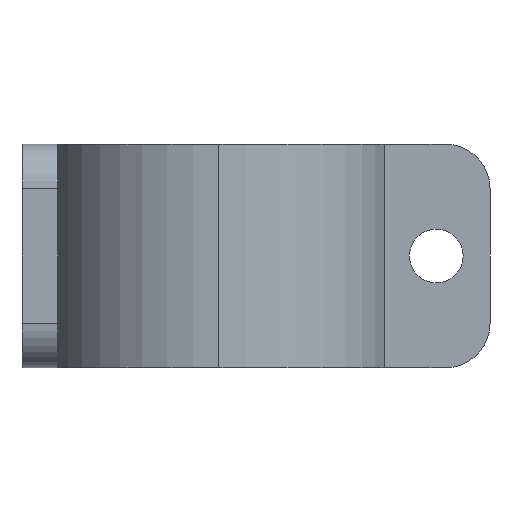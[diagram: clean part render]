
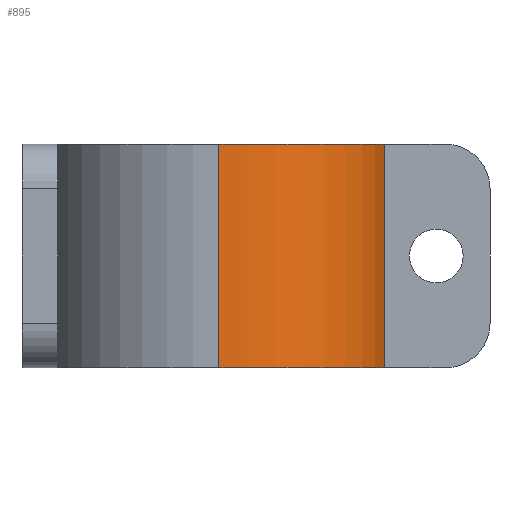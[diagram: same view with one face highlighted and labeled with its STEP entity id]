
A CAD part, left-side view. The second image highlights one B-rep face of the part: STEP entity #895.
In plain terms, the highlighted cylindrical face has radius 19 mm (diameter 38 mm), a partial arc.
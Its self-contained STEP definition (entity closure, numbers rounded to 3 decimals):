
#21 = VERTEX_POINT ( 'NONE', #1050 ) ;
#28 = EDGE_LOOP ( 'NONE', ( #605, #1169, #661, #958 ) ) ;
#34 = DIRECTION ( 'NONE',  ( -1., 0., 0. ) ) ;
#42 = CYLINDRICAL_SURFACE ( 'NONE', #138, 19. ) ;
#138 = AXIS2_PLACEMENT_3D ( 'NONE', #1066, #1179, #34 ) ;
#210 = CARTESIAN_POINT ( 'NONE',  ( -118.941, 30.271, 25. ) ) ;
#213 = VERTEX_POINT ( 'NONE', #517 ) ;
#215 = CARTESIAN_POINT ( 'NONE',  ( -104.441, 11.812, 25. ) ) ;
#220 = CIRCLE ( 'NONE', #1003, 19. ) ;
#252 = VERTEX_POINT ( 'NONE', #761 ) ;
#255 = VECTOR ( 'NONE', #487, 1000. ) ;
#259 = EDGE_CURVE ( 'NONE', #213, #21, #1151, .T. ) ;
#275 = DIRECTION ( 'NONE',  ( 0., 0., 1. ) ) ;
#327 = FACE_OUTER_BOUND ( 'NONE', #28, .T. ) ;
#367 = CARTESIAN_POINT ( 'NONE',  ( -118.941, 30.271, 0. ) ) ;
#378 = DIRECTION ( 'NONE',  ( 0., 0., 1. ) ) ;
#450 = CARTESIAN_POINT ( 'NONE',  ( -99.941, 30.271, 25. ) ) ;
#456 = DIRECTION ( 'NONE',  ( 1., 0., 0. ) ) ;
#487 = DIRECTION ( 'NONE',  ( 0., 0., -1. ) ) ;
#517 = CARTESIAN_POINT ( 'NONE',  ( -104.441, 11.812, 25. ) ) ;
#577 = EDGE_CURVE ( 'NONE', #252, #1128, #1057, .T. ) ;
#605 = ORIENTED_EDGE ( 'NONE', *, *, #791, .F. ) ;
#661 = ORIENTED_EDGE ( 'NONE', *, *, #1123, .T. ) ;
#761 = CARTESIAN_POINT ( 'NONE',  ( -118.941, 30.271, 25. ) ) ;
#777 = DIRECTION ( 'NONE',  ( 0., 0., -1. ) ) ;
#791 = EDGE_CURVE ( 'NONE', #252, #213, #934, .T. ) ;
#820 = AXIS2_PLACEMENT_3D ( 'NONE', #450, #275, #1204 ) ;
#846 = CARTESIAN_POINT ( 'NONE',  ( -99.941, 30.271, 0. ) ) ;
#895 = ADVANCED_FACE ( 'NONE', ( #327 ), #42, .T. ) ;
#905 = VECTOR ( 'NONE', #777, 1000. ) ;
#934 = CIRCLE ( 'NONE', #820, 19. ) ;
#958 = ORIENTED_EDGE ( 'NONE', *, *, #259, .F. ) ;
#1003 = AXIS2_PLACEMENT_3D ( 'NONE', #846, #378, #456 ) ;
#1050 = CARTESIAN_POINT ( 'NONE',  ( -104.441, 11.812, 0. ) ) ;
#1057 = LINE ( 'NONE', #210, #255 ) ;
#1066 = CARTESIAN_POINT ( 'NONE',  ( -99.941, 30.271, 25. ) ) ;
#1123 = EDGE_CURVE ( 'NONE', #1128, #21, #220, .T. ) ;
#1128 = VERTEX_POINT ( 'NONE', #367 ) ;
#1151 = LINE ( 'NONE', #215, #905 ) ;
#1169 = ORIENTED_EDGE ( 'NONE', *, *, #577, .T. ) ;
#1179 = DIRECTION ( 'NONE',  ( 0., 0., -1. ) ) ;
#1204 = DIRECTION ( 'NONE',  ( 1., 0., 0. ) ) ;
